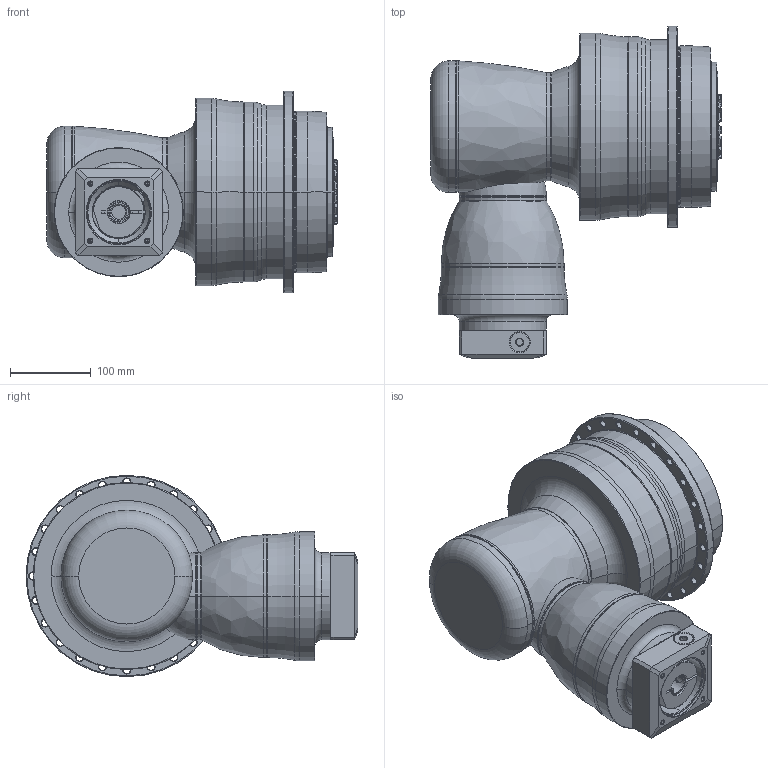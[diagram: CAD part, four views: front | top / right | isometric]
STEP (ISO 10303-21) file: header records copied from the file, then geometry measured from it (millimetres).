
FILE_DESCRIPTION((''),'2;1');
FILE_NAME('APCK200_4ST_24-P0409510201_ASM','2018-05-15T',('d01226'),(''),'PRO/ENGINEER BY PARAMETRIC TECHNOLOGY CORPORATION, 2008410','PRO/ENGINEER BY PARAMETRIC TECHNOLOGY CORPORATION, 2008410','');
FILE_SCHEMA(('CONFIG_CONTROL_DESIGN'));
Length unit declared in the file: millimetre
Products named in the file (13): P1008500002; P1832600001; P0278601003; P0359660103; P1211600001; P1315500001; P1007501001; P1317501101; P0409510201; P0503500010; P0912451001; 21711418017; APCK200_4ST_24-P0409510201_ASM
Assembly tree (12 placements, depth 2):
  APCK200_4ST_24-P0409510201_ASM
    P1008500002
    P1832600001
    P0278601003
    P0359660103
    P1211600001
    P1315500001
    P1007501001
    P1317501101
    P0409510201
    P0503500010
    P0912451001
    21711418017
Bounding box: 359.6 x 411.25 x 249.5 mm (x, y, z)
Volume: 12726657.1 mm3; surface area: 906429.5 mm2
Topology: 13 solids, 23 shells, 703 faces, 1654 edges, 1006 vertices
Faces by surface type: cone 219, cylinder 219, plane 128, torus 114, bspline 21, sphere 2
Entity records: 26190 total; most frequent: CARTESIAN_POINT 9497, DIRECTION 3756, ORIENTED_EDGE 3238, AXIS2_PLACEMENT_3D 1642, EDGE_CURVE 1640, VERTEX_POINT 1006, CIRCLE 925, EDGE_LOOP 810
